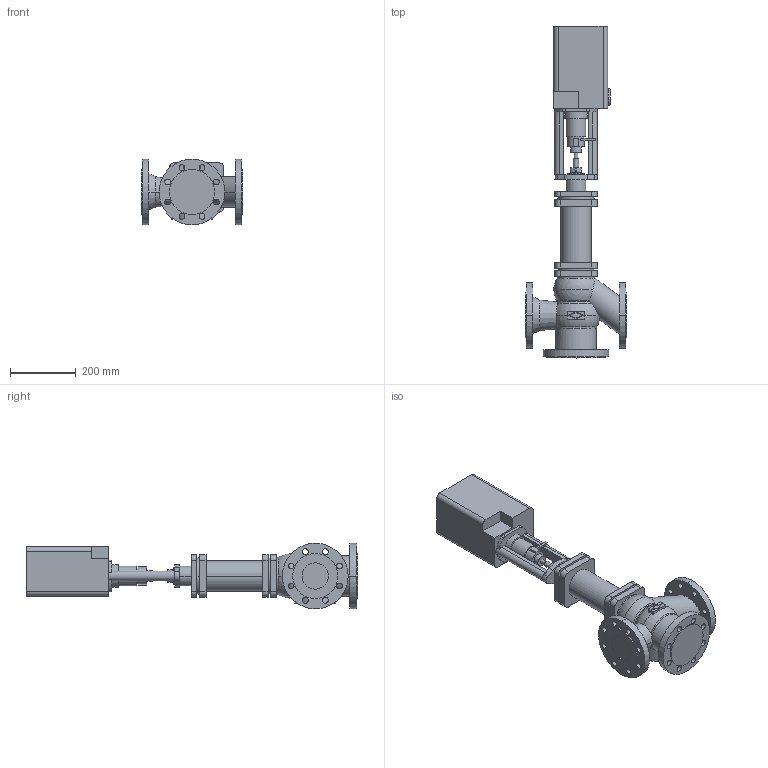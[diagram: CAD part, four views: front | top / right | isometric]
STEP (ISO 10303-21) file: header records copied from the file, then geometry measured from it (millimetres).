
FILE_DESCRIPTION(('OneSpaceDesigner STEP Export'),'2;1');
FILE_NAME('c000002439.stp','2006-09-21T11:43:49',(''),(''),'OneSpace Designer STEP processor for AP214 (Solid Model)','OneSpace Designer 13.20A 18-Aug-2005 (C) CoCreate Software GmbH','');
FILE_SCHEMA(('AUTOMOTIVE_DESIGN { 1 0 10303 214 1 1 1 1 }'));
Length unit declared in the file: millimetre
Products named in the file (2): 1; 2
Bounding box: 310 x 1011.7 x 200 mm (x, y, z)
Volume: 15748585.3 mm3; surface area: 812529.6 mm2
Topology: 2 solids, 2 shells, 271 faces, 705 edges, 464 vertices
Faces by surface type: cylinder 138, plane 110, torus 15, sphere 4, cone 4
Entity records: 7918 total; most frequent: CARTESIAN_POINT 1613, ORIENTED_EDGE 1402, DIRECTION 1177, EDGE_CURVE 701, VERTEX_POINT 464, AXIS2_PLACEMENT_3D 418, EDGE_LOOP 349, VECTOR 341
